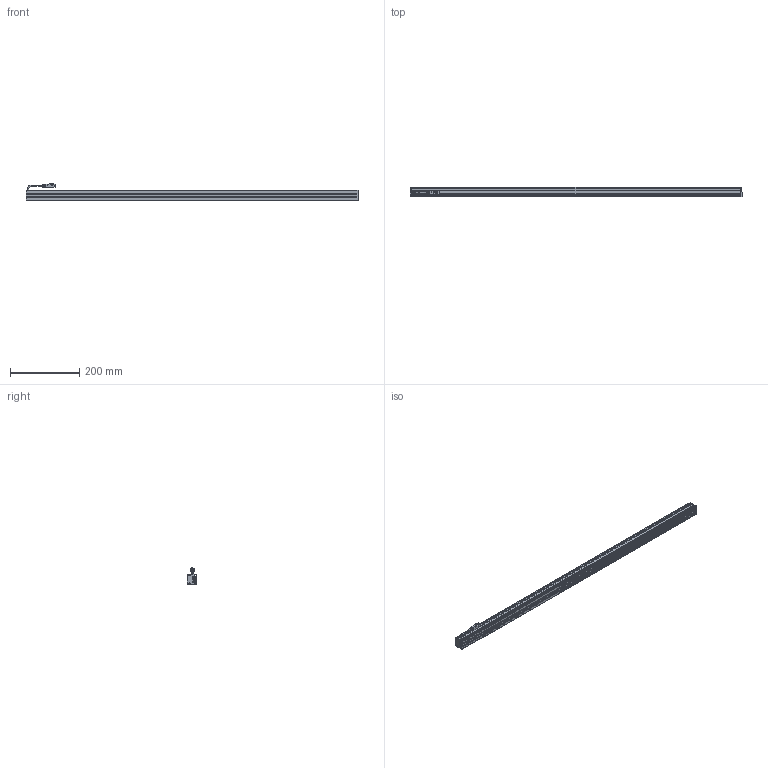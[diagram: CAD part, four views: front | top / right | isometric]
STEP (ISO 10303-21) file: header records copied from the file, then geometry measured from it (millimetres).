
FILE_DESCRIPTION (( 'STEP AP203' ), '1' );
FILE_NAME ('CK-BL95728.STEP', '2026-01-02T07:32:24', ( '' ), ( '' ), 'SwSTEP 2.0', 'SolidWorks 2022', '' );
FILE_SCHEMA (( 'CONFIG_CONTROL_DESIGN' ));
Length unit declared in the file: millimetre
Products named in the file (6): 十字沉头螺丝 M2x10; 光源线-01; CK-BL95728-002A; CK-BL95728-001A; CK-BL95728-003A; CK-BL95728
Assembly tree (11 placements, depth 2):
  CK-BL95728
    CK-BL95728-001A
    CK-BL95728-002A  x2
    CK-BL95728-003A
    光源线-01
    十字沉头螺丝 M2x10  x6
Bounding box: 957 x 27 x 47.34 mm (x, y, z)
Volume: 306164.1 mm3; surface area: 267849.7 mm2
Topology: 13 solids, 13 shells, 575 faces, 1494 edges, 950 vertices
Faces by surface type: plane 337, cylinder 172, cone 46, bspline 20
Entity records: 13997 total; most frequent: CARTESIAN_POINT 2782, ORIENTED_EDGE 2202, DIRECTION 2163, EDGE_CURVE 1101, VECTOR 781, LINE 781, VERTEX_POINT 714, AXIS2_PLACEMENT_3D 691
